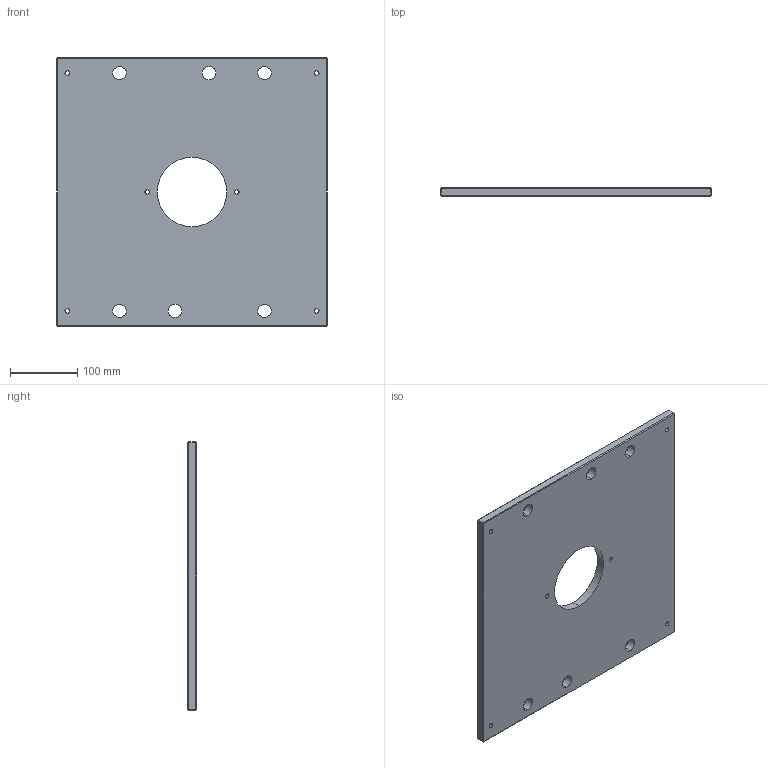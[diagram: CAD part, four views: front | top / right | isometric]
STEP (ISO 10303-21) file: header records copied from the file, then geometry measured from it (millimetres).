
FILE_DESCRIPTION (( 'STEP AP214' ), '1' );
FILE_NAME ('ME-0619-CH-1616-B.STEP', '2020-02-12T14:48:33', ( '' ), ( '' ), 'SwSTEP 2.0', 'SolidWorks 2018', '' );
FILE_SCHEMA (( 'AUTOMOTIVE_DESIGN' ));
Length unit declared in the file: inch
Products named in the file (1): ME-0619-CH-1616-B
Bounding box: 403.23 x 12.7 x 400.05 mm (x, y, z)
Volume: 1912225.3 mm3; surface area: 330066.4 mm2
Topology: 1 solids, 1 shells, 64 faces, 150 edges, 88 vertices
Faces by surface type: cylinder 26, plane 26, cone 12
Entity records: 1902 total; most frequent: DIRECTION 344, CARTESIAN_POINT 303, ORIENTED_EDGE 300, EDGE_CURVE 150, AXIS2_PLACEMENT_3D 129, EDGE_LOOP 90, VERTEX_POINT 88, LINE 86
